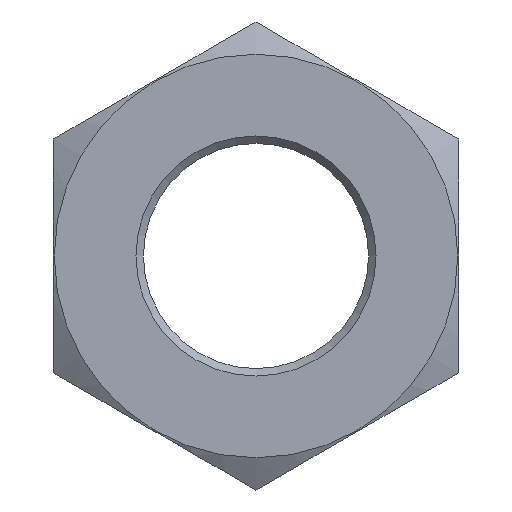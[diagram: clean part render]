
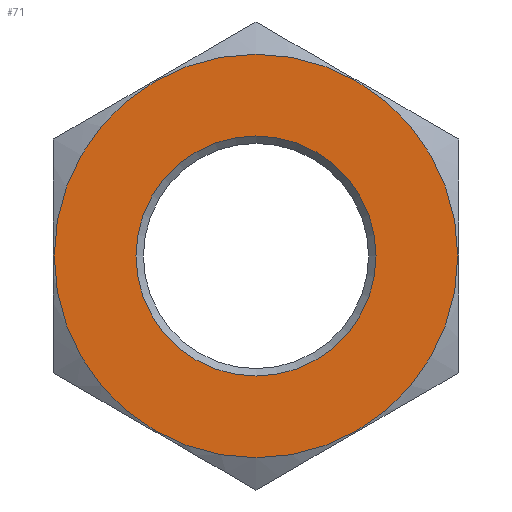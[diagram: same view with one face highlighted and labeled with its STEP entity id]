
A CAD part, left-side view. The second image highlights one B-rep face of the part: STEP entity #71.
In plain terms, the highlighted planar face has unit normal (-1, 0, 0).
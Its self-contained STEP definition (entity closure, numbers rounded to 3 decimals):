
#71 = ADVANCED_FACE( '', ( #147, #148 ), #149, .F. );
#147 = FACE_BOUND( '', #216, .T. );
#148 = FACE_OUTER_BOUND( '', #217, .T. );
#149 = PLANE( '', #218 );
#216 = EDGE_LOOP( '', ( #334 ) );
#217 = EDGE_LOOP( '', ( #335 ) );
#218 = AXIS2_PLACEMENT_3D( '', #336, #337, #338 );
#334 = ORIENTED_EDGE( '', *, *, #376, .T. );
#335 = ORIENTED_EDGE( '', *, *, #360, .T. );
#336 = CARTESIAN_POINT( '', ( -17., 0., 0. ) );
#337 = DIRECTION( '', ( 1., 0., 0. ) );
#338 = DIRECTION( '', ( 0., 1., 0. ) );
#360 = EDGE_CURVE( '', #415, #415, #416, .T. );
#376 = EDGE_CURVE( '', #441, #441, #442, .T. );
#415 = VERTEX_POINT( '', #548 );
#416 = CIRCLE( '', #549, 13.438 );
#441 = VERTEX_POINT( '', #642 );
#442 = CIRCLE( '', #643, 8. );
#548 = CARTESIAN_POINT( '', ( -17., 0., 13.438 ) );
#549 = AXIS2_PLACEMENT_3D( '', #676, #677, #678 );
#642 = CARTESIAN_POINT( '', ( -17., 8., 0. ) );
#643 = AXIS2_PLACEMENT_3D( '', #690, #691, #692 );
#676 = CARTESIAN_POINT( '', ( -17., 0., 0. ) );
#677 = DIRECTION( '', ( -1., 0., 0. ) );
#678 = DIRECTION( '', ( 0., 0., 1. ) );
#690 = CARTESIAN_POINT( '', ( -17., 0., 0. ) );
#691 = DIRECTION( '', ( 1., 0., 0. ) );
#692 = DIRECTION( '', ( 0., 1., 0. ) );
